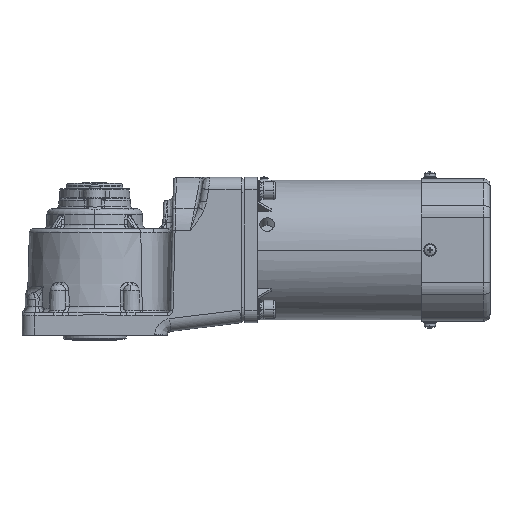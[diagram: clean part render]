
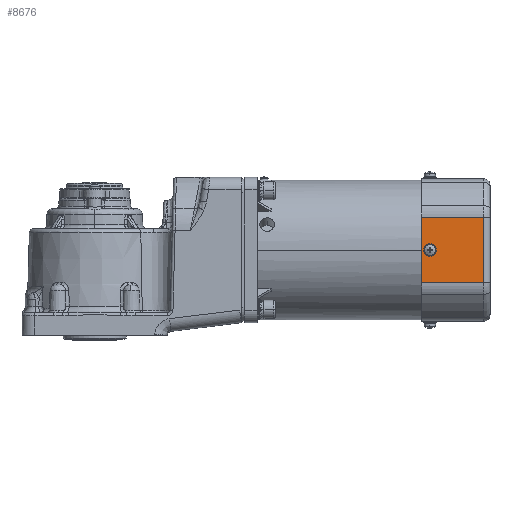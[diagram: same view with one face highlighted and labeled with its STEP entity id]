
A CAD part, front view. The second image highlights one B-rep face of the part: STEP entity #8676.
In plain terms, the highlighted planar face has unit normal (0, -1, 0) as drawn and (0, 0, -1) by its records, which use the part's own axes.
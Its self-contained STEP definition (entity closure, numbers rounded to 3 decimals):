
#629 = VECTOR ( 'NONE', #62753, 1000. ) ;
#693 = CARTESIAN_POINT ( 'NONE',  ( 147.27, -37.621, 162. ) ) ;
#2038 = EDGE_CURVE ( 'NONE', #4324, #5356, #33553, .T. ) ;
#2881 = ORIENTED_EDGE ( 'NONE', *, *, #24778, .T. ) ;
#3576 = CARTESIAN_POINT ( 'NONE',  ( 102.77, -37.621, 162. ) ) ;
#4324 = VERTEX_POINT ( 'NONE', #11213 ) ;
#5356 = VERTEX_POINT ( 'NONE', #9513 ) ;
#5390 = CIRCLE ( 'NONE', #59529, 2. ) ;
#8676 = ADVANCED_FACE ( 'NONE', ( #75930, #76326 ), #39918, .T. ) ;
#9319 = CARTESIAN_POINT ( 'NONE',  ( 102.77, -14.105, 162. ) ) ;
#9513 = CARTESIAN_POINT ( 'NONE',  ( 106.77, -13.105, 162. ) ) ;
#11213 = CARTESIAN_POINT ( 'NONE',  ( 106.77, -15.105, 162. ) ) ;
#12634 = EDGE_CURVE ( 'NONE', #13636, #38357, #33218, .T. ) ;
#13636 = VERTEX_POINT ( 'NONE', #693 ) ;
#15379 = LINE ( 'NONE', #9319, #15973 ) ;
#15973 = VECTOR ( 'NONE', #33979, 1000. ) ;
#16898 = ORIENTED_EDGE ( 'NONE', *, *, #42028, .T. ) ;
#18314 = CARTESIAN_POINT ( 'NONE',  ( 102.77, -37.621, 162. ) ) ;
#18881 = ORIENTED_EDGE ( 'NONE', *, *, #2038, .F. ) ;
#23798 = ORIENTED_EDGE ( 'NONE', *, *, #79704, .T. ) ;
#24462 = CARTESIAN_POINT ( 'NONE',  ( 102.77, 9.411, 162. ) ) ;
#24778 = EDGE_CURVE ( 'NONE', #13636, #40861, #55522, .T. ) ;
#25525 = VERTEX_POINT ( 'NONE', #47072 ) ;
#27203 = CARTESIAN_POINT ( 'NONE',  ( 110.77, -11.105, 162. ) ) ;
#27324 = ORIENTED_EDGE ( 'NONE', *, *, #71783, .T. ) ;
#27894 = CARTESIAN_POINT ( 'NONE',  ( 106.77, -14.105, 162. ) ) ;
#32450 = CARTESIAN_POINT ( 'NONE',  ( 147.27, 9.411, 162. ) ) ;
#32819 = DIRECTION ( 'NONE',  ( 0., 1., 0. ) ) ;
#33218 = LINE ( 'NONE', #40071, #53224 ) ;
#33553 = LINE ( 'NONE', #27894, #47512 ) ;
#33979 = DIRECTION ( 'NONE',  ( 0., 1., 0. ) ) ;
#35988 = VECTOR ( 'NONE', #44318, 1000. ) ;
#38357 = VERTEX_POINT ( 'NONE', #32450 ) ;
#38639 = LINE ( 'NONE', #70198, #35988 ) ;
#39918 = PLANE ( 'NONE',  #66350 ) ;
#40071 = CARTESIAN_POINT ( 'NONE',  ( 147.27, -14.105, 162. ) ) ;
#40861 = VERTEX_POINT ( 'NONE', #45638 ) ;
#41019 = DIRECTION ( 'NONE',  ( 0., 0., 1. ) ) ;
#42028 = EDGE_CURVE ( 'NONE', #25525, #66569, #63193, .T. ) ;
#43853 = VERTEX_POINT ( 'NONE', #24462 ) ;
#44318 = DIRECTION ( 'NONE',  ( -1., 0., 0. ) ) ;
#44341 = EDGE_LOOP ( 'NONE', ( #2881, #27324, #55564, #69136 ) ) ;
#45638 = CARTESIAN_POINT ( 'NONE',  ( 102.77, -37.621, 162. ) ) ;
#46223 = EDGE_LOOP ( 'NONE', ( #60828, #16898, #23798, #18881 ) ) ;
#47072 = CARTESIAN_POINT ( 'NONE',  ( 110.77, -15.105, 162. ) ) ;
#47512 = VECTOR ( 'NONE', #52556, 1000. ) ;
#50110 = VECTOR ( 'NONE', #57138, 1000. ) ;
#50526 = DIRECTION ( 'NONE',  ( 1., 0., 0. ) ) ;
#52122 = CARTESIAN_POINT ( 'NONE',  ( 108.77, -13.105, 162. ) ) ;
#52392 = EDGE_CURVE ( 'NONE', #38357, #43853, #38639, .T. ) ;
#52556 = DIRECTION ( 'NONE',  ( 0., 1., 0. ) ) ;
#53148 = CARTESIAN_POINT ( 'NONE',  ( 110.77, -13.105, 162. ) ) ;
#53224 = VECTOR ( 'NONE', #32819, 1000. ) ;
#54670 = EDGE_CURVE ( 'NONE', #4324, #25525, #56651, .T. ) ;
#55522 = LINE ( 'NONE', #18314, #629 ) ;
#55564 = ORIENTED_EDGE ( 'NONE', *, *, #52392, .F. ) ;
#56651 = CIRCLE ( 'NONE', #70930, 2. ) ;
#57138 = DIRECTION ( 'NONE',  ( 0., 1., 0. ) ) ;
#58015 = DIRECTION ( 'NONE',  ( -1., 0., 0. ) ) ;
#59529 = AXIS2_PLACEMENT_3D ( 'NONE', #52122, #70344, #50526 ) ;
#60828 = ORIENTED_EDGE ( 'NONE', *, *, #54670, .T. ) ;
#62753 = DIRECTION ( 'NONE',  ( -1., 0., 0. ) ) ;
#63193 = LINE ( 'NONE', #27203, #50110 ) ;
#64584 = DIRECTION ( 'NONE',  ( 0., 0., -1. ) ) ;
#66350 = AXIS2_PLACEMENT_3D ( 'NONE', #3576, #64584, #76735 ) ;
#66569 = VERTEX_POINT ( 'NONE', #53148 ) ;
#69136 = ORIENTED_EDGE ( 'NONE', *, *, #12634, .F. ) ;
#70198 = CARTESIAN_POINT ( 'NONE',  ( 102.77, 9.411, 162. ) ) ;
#70344 = DIRECTION ( 'NONE',  ( 0., 0., 1. ) ) ;
#70930 = AXIS2_PLACEMENT_3D ( 'NONE', #71776, #41019, #58015 ) ;
#71776 = CARTESIAN_POINT ( 'NONE',  ( 108.77, -15.105, 162. ) ) ;
#71783 = EDGE_CURVE ( 'NONE', #40861, #43853, #15379, .T. ) ;
#75930 = FACE_OUTER_BOUND ( 'NONE', #44341, .T. ) ;
#76326 = FACE_BOUND ( 'NONE', #46223, .T. ) ;
#76735 = DIRECTION ( 'NONE',  ( 0., -1., 0. ) ) ;
#79704 = EDGE_CURVE ( 'NONE', #66569, #5356, #5390, .T. ) ;
